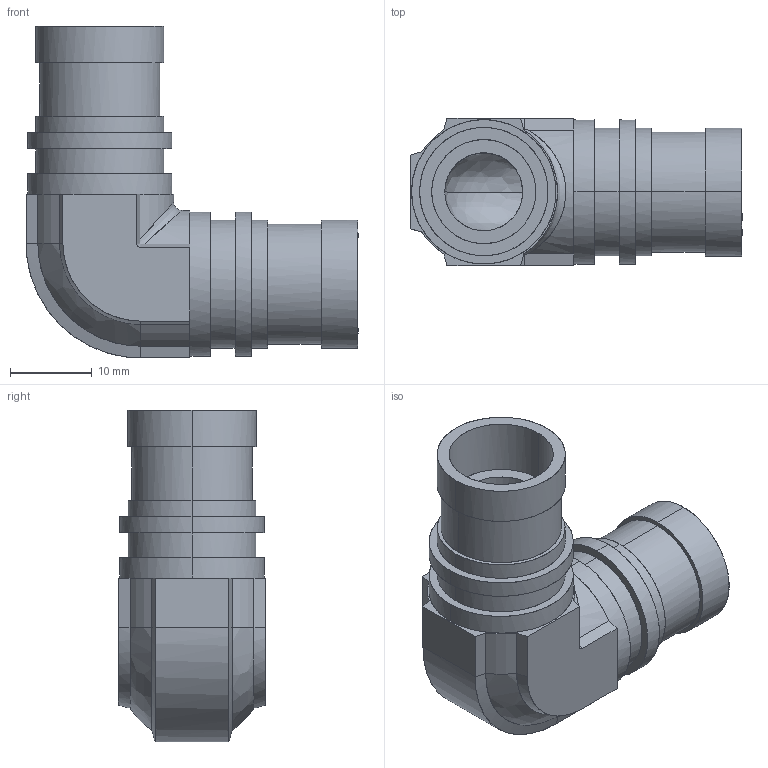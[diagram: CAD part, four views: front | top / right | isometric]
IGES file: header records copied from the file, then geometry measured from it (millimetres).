
Start section: Comment
Global section: file name: 70-12.7UE-P.igs; native system:  By Spatial Corp.; preprocessor: XPlus GENERIC/IGES 3.0; author: Author; organization: Title; date: 20100222.165258; units: inch
Bounding box: 40.5 x 18 x 40.5 mm (x, y, z)
Surface area: 5900.1 mm2 (no closed solid volume)
Topology: 0 solids, 0 shells, 83 faces, 396 edges, 396 vertices
Faces by surface type: bspline 83
